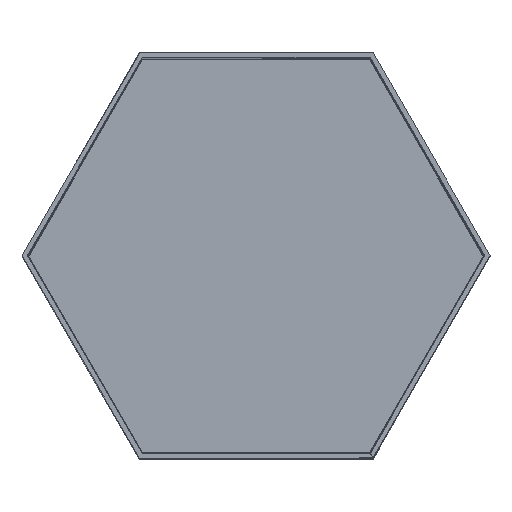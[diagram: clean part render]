
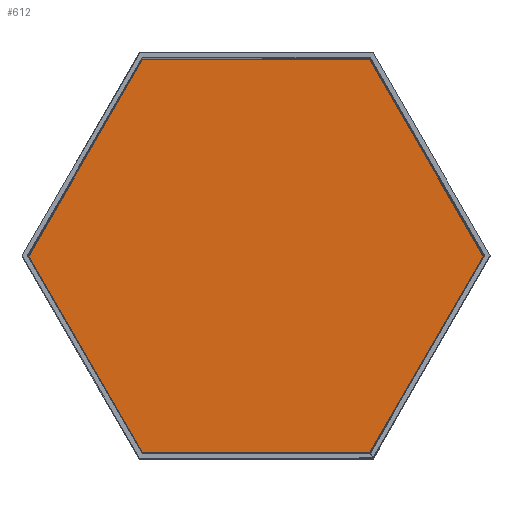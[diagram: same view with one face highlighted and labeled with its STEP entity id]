
A CAD part, top view. The second image highlights one B-rep face of the part: STEP entity #612.
In plain terms, the highlighted planar face has unit normal (0, 0, 1).
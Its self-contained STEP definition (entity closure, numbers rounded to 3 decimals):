
#612=ADVANCED_FACE('',(#1149),#8352,.T.);
#1149=FACE_OUTER_BOUND('',#1687,.T.);
#1687=EDGE_LOOP('',(#2329,#2330,#2331,#2332,#2333,#2334));
#2329=ORIENTED_EDGE('',*,*,#4929,.T.);
#2330=ORIENTED_EDGE('',*,*,#4931,.T.);
#2331=ORIENTED_EDGE('',*,*,#4896,.T.);
#2332=ORIENTED_EDGE('',*,*,#4909,.T.);
#2333=ORIENTED_EDGE('',*,*,#4899,.T.);
#2334=ORIENTED_EDGE('',*,*,#4897,.T.);
#4896=EDGE_CURVE('',#7502,#7503,#6290,.T.);
#4897=EDGE_CURVE('',#7505,#7500,#6291,.T.);
#4899=EDGE_CURVE('',#7504,#7505,#6292,.T.);
#4909=EDGE_CURVE('',#7503,#7504,#6293,.T.);
#4929=EDGE_CURVE('',#7500,#7501,#6295,.T.);
#4931=EDGE_CURVE('',#7501,#7502,#6296,.T.);
#6290=B_SPLINE_CURVE_WITH_KNOTS('',1,(#11341,#11342),.UNSPECIFIED.,.F.,
 .F.,(2,2),(0.,121.305),.UNSPECIFIED.);
#6291=B_SPLINE_CURVE_WITH_KNOTS('',1,(#11343,#11344),.UNSPECIFIED.,.F.,
 .F.,(2,2),(0.,121.305),.UNSPECIFIED.);
#6292=B_SPLINE_CURVE_WITH_KNOTS('',1,(#11348,#11349),.UNSPECIFIED.,.F.,
 .F.,(2,2),(-121.305,0.),.UNSPECIFIED.);
#6293=B_SPLINE_CURVE_WITH_KNOTS('',1,(#11377,#11378),.UNSPECIFIED.,.F.,
 .F.,(2,2),(-121.305,0.),.UNSPECIFIED.);
#6295=B_SPLINE_CURVE_WITH_KNOTS('',1,(#11435,#11436),.UNSPECIFIED.,.F.,
 .F.,(2,2),(-121.305,0.),.UNSPECIFIED.);
#6296=B_SPLINE_CURVE_WITH_KNOTS('',1,(#11440,#11441),.UNSPECIFIED.,.F.,
 .F.,(2,2),(-121.305,0.),.UNSPECIFIED.);
#7500=VERTEX_POINT('',#11222);
#7501=VERTEX_POINT('',#11223);
#7502=VERTEX_POINT('',#11224);
#7503=VERTEX_POINT('',#11225);
#7504=VERTEX_POINT('',#11226);
#7505=VERTEX_POINT('',#11227);
#8352=PLANE('',#8751);
#8751=AXIS2_PLACEMENT_3D('',#9601,#9176,$);
#9176=DIRECTION('',(0.,0.,1.));
#9601=CARTESIAN_POINT('',(-145.566,-126.064,17.));
#11222=CARTESIAN_POINT('',(-60.652,105.053,17.));
#11223=CARTESIAN_POINT('',(-121.305,0.,17.));
#11224=CARTESIAN_POINT('',(-60.652,-105.053,17.));
#11225=CARTESIAN_POINT('',(60.652,-105.053,17.));
#11226=CARTESIAN_POINT('',(121.305,0.,17.));
#11227=CARTESIAN_POINT('',(60.652,105.053,17.));
#11341=CARTESIAN_POINT('',(-60.652,-105.053,17.));
#11342=CARTESIAN_POINT('',(60.652,-105.053,17.));
#11343=CARTESIAN_POINT('',(60.652,105.053,17.));
#11344=CARTESIAN_POINT('',(-60.652,105.053,17.));
#11348=CARTESIAN_POINT('',(121.305,0.,17.));
#11349=CARTESIAN_POINT('',(60.652,105.053,17.));
#11377=CARTESIAN_POINT('',(60.652,-105.053,17.));
#11378=CARTESIAN_POINT('',(121.305,0.,17.));
#11435=CARTESIAN_POINT('',(-60.652,105.053,17.));
#11436=CARTESIAN_POINT('',(-121.305,0.,17.));
#11440=CARTESIAN_POINT('',(-121.305,0.,17.));
#11441=CARTESIAN_POINT('',(-60.652,-105.053,17.));
